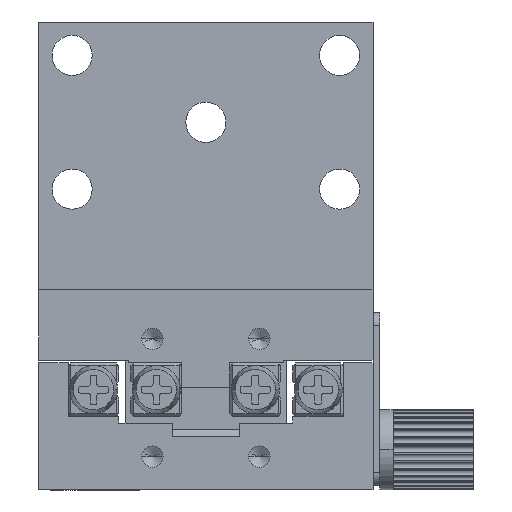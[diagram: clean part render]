
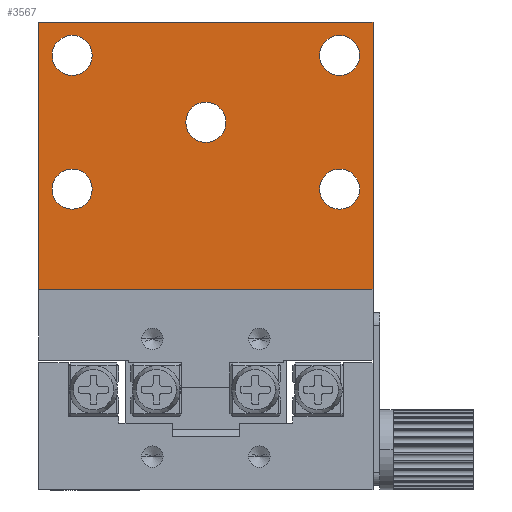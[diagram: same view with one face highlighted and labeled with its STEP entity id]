
A CAD part, front view. The second image highlights one B-rep face of the part: STEP entity #3567.
In plain terms, the highlighted planar face has unit normal (0, -1, 0).
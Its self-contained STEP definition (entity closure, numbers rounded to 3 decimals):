
#140 = FACE_OUTER_BOUND ( 'NONE', #2528, .T. ) ;
#514 = EDGE_CURVE ( 'NONE', #7730, #12705, #9585, .T. ) ;
#1009 = FACE_BOUND ( 'NONE', #10762, .T. ) ;
#1157 = CARTESIAN_POINT ( 'NONE',  ( 10., 0., -11. ) ) ;
#1181 = CARTESIAN_POINT ( 'NONE',  ( 10., 0., -12.5 ) ) ;
#1530 = AXIS2_PLACEMENT_3D ( 'NONE', #2009, #1953, #11672 ) ;
#1678 = EDGE_CURVE ( 'NONE', #12705, #7730, #16372, .T. ) ;
#1953 = DIRECTION ( 'NONE',  ( 0., 1., 0. ) ) ;
#2009 = CARTESIAN_POINT ( 'NONE',  ( 10., 0., -12.5 ) ) ;
#2384 = CARTESIAN_POINT ( 'NONE',  ( -10., 0., -11. ) ) ;
#2528 = EDGE_LOOP ( 'NONE', ( #13235, #16223, #15212, #7997 ) ) ;
#3305 = EDGE_CURVE ( 'NONE', #4395, #13098, #14476, .T. ) ;
#3344 = FACE_BOUND ( 'NONE', #16914, .T. ) ;
#3500 = CARTESIAN_POINT ( 'NONE',  ( -10., 0., -4. ) ) ;
#3554 = ORIENTED_EDGE ( 'NONE', *, *, #4140, .T. ) ;
#3567 = ADVANCED_FACE ( 'NONE', ( #5704, #11893, #3781, #3344, #1009, #140 ), #10033, .F. ) ;
#3698 = EDGE_LOOP ( 'NONE', ( #13411, #15496 ) ) ;
#3702 = AXIS2_PLACEMENT_3D ( 'NONE', #1181, #14852, #17394 ) ;
#3781 = FACE_BOUND ( 'NONE', #6501, .T. ) ;
#3858 = CARTESIAN_POINT ( 'NONE',  ( 12.5, 0., -20. ) ) ;
#4042 = AXIS2_PLACEMENT_3D ( 'NONE', #6211, #13021, #4842 ) ;
#4094 = CARTESIAN_POINT ( 'NONE',  ( 10., 0., -2.5 ) ) ;
#4105 = DIRECTION ( 'NONE',  ( 0., 0., 1. ) ) ;
#4140 = EDGE_CURVE ( 'NONE', #9776, #15079, #17193, .T. ) ;
#4395 = VERTEX_POINT ( 'NONE', #6681 ) ;
#4709 = CARTESIAN_POINT ( 'NONE',  ( 0., 0., -6. ) ) ;
#4808 = VERTEX_POINT ( 'NONE', #11592 ) ;
#4842 = DIRECTION ( 'NONE',  ( 0., 0., 1. ) ) ;
#5161 = EDGE_CURVE ( 'NONE', #9885, #9914, #7875, .T. ) ;
#5178 = CARTESIAN_POINT ( 'NONE',  ( -10., 0., -2.5 ) ) ;
#5704 = FACE_BOUND ( 'NONE', #3698, .T. ) ;
#5728 = EDGE_CURVE ( 'NONE', #8349, #9914, #8684, .T. ) ;
#6193 = DIRECTION ( 'NONE',  ( -1., 0., 0. ) ) ;
#6211 = CARTESIAN_POINT ( 'NONE',  ( -10., 0., -12.5 ) ) ;
#6301 = ORIENTED_EDGE ( 'NONE', *, *, #9181, .T. ) ;
#6327 = DIRECTION ( 'NONE',  ( 0., 1., 0. ) ) ;
#6501 = EDGE_LOOP ( 'NONE', ( #11698, #10895 ) ) ;
#6621 = DIRECTION ( 'NONE',  ( 0., 0., 1. ) ) ;
#6673 = DIRECTION ( 'NONE',  ( 0., 0., 1. ) ) ;
#6681 = CARTESIAN_POINT ( 'NONE',  ( 10., 0., -1. ) ) ;
#6759 = CARTESIAN_POINT ( 'NONE',  ( 10., 0., -2.5 ) ) ;
#6771 = EDGE_CURVE ( 'NONE', #12046, #4808, #12106, .T. ) ;
#6869 = DIRECTION ( 'NONE',  ( 0., 0., 1. ) ) ;
#7203 = CARTESIAN_POINT ( 'NONE',  ( -12.5, 0., -20. ) ) ;
#7292 = EDGE_CURVE ( 'NONE', #12628, #9885, #13567, .T. ) ;
#7313 = CIRCLE ( 'NONE', #8182, 1.5 ) ;
#7425 = DIRECTION ( 'NONE',  ( 0., 0., 1. ) ) ;
#7522 = DIRECTION ( 'NONE',  ( -1., 0., 0. ) ) ;
#7730 = VERTEX_POINT ( 'NONE', #13356 ) ;
#7875 = LINE ( 'NONE', #12550, #12121 ) ;
#7997 = ORIENTED_EDGE ( 'NONE', *, *, #7292, .T. ) ;
#8007 = AXIS2_PLACEMENT_3D ( 'NONE', #13139, #6327, #15864 ) ;
#8011 = AXIS2_PLACEMENT_3D ( 'NONE', #12390, #8167, #4105 ) ;
#8167 = DIRECTION ( 'NONE',  ( 0., 1., 0. ) ) ;
#8182 = AXIS2_PLACEMENT_3D ( 'NONE', #8474, #15570, #8233 ) ;
#8233 = DIRECTION ( 'NONE',  ( 0., 0., 1. ) ) ;
#8243 = EDGE_LOOP ( 'NONE', ( #16619, #6301 ) ) ;
#8349 = VERTEX_POINT ( 'NONE', #3858 ) ;
#8474 = CARTESIAN_POINT ( 'NONE',  ( 0., 0., -7.5 ) ) ;
#8484 = VECTOR ( 'NONE', #12285, 1000. ) ;
#8684 = LINE ( 'NONE', #12936, #14237 ) ;
#8798 = CARTESIAN_POINT ( 'NONE',  ( 10., 0., -14. ) ) ;
#8902 = AXIS2_PLACEMENT_3D ( 'NONE', #6759, #17658, #13722 ) ;
#9181 = EDGE_CURVE ( 'NONE', #12872, #16712, #7313, .T. ) ;
#9198 = AXIS2_PLACEMENT_3D ( 'NONE', #15467, #15408, #7425 ) ;
#9585 = CIRCLE ( 'NONE', #14883, 1.5 ) ;
#9776 = VERTEX_POINT ( 'NONE', #1157 ) ;
#9855 = ORIENTED_EDGE ( 'NONE', *, *, #17641, .T. ) ;
#9880 = CARTESIAN_POINT ( 'NONE',  ( 10., 0., -4. ) ) ;
#9885 = VERTEX_POINT ( 'NONE', #16598 ) ;
#9906 = CIRCLE ( 'NONE', #3702, 1.5 ) ;
#9914 = VERTEX_POINT ( 'NONE', #7203 ) ;
#9915 = VECTOR ( 'NONE', #6193, 1000. ) ;
#10033 = PLANE ( 'NONE',  #9198 ) ;
#10441 = CARTESIAN_POINT ( 'NONE',  ( 12.5, 0., 0. ) ) ;
#10650 = EDGE_CURVE ( 'NONE', #4808, #12046, #17264, .T. ) ;
#10762 = EDGE_LOOP ( 'NONE', ( #3554, #9855 ) ) ;
#10895 = ORIENTED_EDGE ( 'NONE', *, *, #6771, .T. ) ;
#11592 = CARTESIAN_POINT ( 'NONE',  ( -10., 0., -1. ) ) ;
#11672 = DIRECTION ( 'NONE',  ( 0., 0., 1. ) ) ;
#11698 = ORIENTED_EDGE ( 'NONE', *, *, #10650, .T. ) ;
#11766 = EDGE_CURVE ( 'NONE', #12628, #8349, #17222, .T. ) ;
#11811 = EDGE_CURVE ( 'NONE', #13098, #4395, #12987, .T. ) ;
#11893 = FACE_BOUND ( 'NONE', #8243, .T. ) ;
#11904 = DIRECTION ( 'NONE',  ( 0., 1., 0. ) ) ;
#12046 = VERTEX_POINT ( 'NONE', #3500 ) ;
#12106 = CIRCLE ( 'NONE', #8007, 1.5 ) ;
#12121 = VECTOR ( 'NONE', #16642, 1000. ) ;
#12285 = DIRECTION ( 'NONE',  ( 0., 0., -1. ) ) ;
#12309 = DIRECTION ( 'NONE',  ( 0., 1., 0. ) ) ;
#12390 = CARTESIAN_POINT ( 'NONE',  ( 0., 0., -7.5 ) ) ;
#12550 = CARTESIAN_POINT ( 'NONE',  ( -12.5, 0., 0. ) ) ;
#12628 = VERTEX_POINT ( 'NONE', #10441 ) ;
#12705 = VERTEX_POINT ( 'NONE', #2384 ) ;
#12872 = VERTEX_POINT ( 'NONE', #17471 ) ;
#12936 = CARTESIAN_POINT ( 'NONE',  ( 12.5, 0., -20. ) ) ;
#12987 = CIRCLE ( 'NONE', #8902, 1.5 ) ;
#12999 = CARTESIAN_POINT ( 'NONE',  ( 12.5, 0., 0. ) ) ;
#13021 = DIRECTION ( 'NONE',  ( 0., 1., 0. ) ) ;
#13098 = VERTEX_POINT ( 'NONE', #9880 ) ;
#13139 = CARTESIAN_POINT ( 'NONE',  ( -10., 0., -2.5 ) ) ;
#13174 = CIRCLE ( 'NONE', #8011, 1.5 ) ;
#13235 = ORIENTED_EDGE ( 'NONE', *, *, #5161, .T. ) ;
#13356 = CARTESIAN_POINT ( 'NONE',  ( -10., 0., -14. ) ) ;
#13411 = ORIENTED_EDGE ( 'NONE', *, *, #1678, .T. ) ;
#13466 = AXIS2_PLACEMENT_3D ( 'NONE', #5178, #11904, #6621 ) ;
#13567 = LINE ( 'NONE', #12999, #9915 ) ;
#13722 = DIRECTION ( 'NONE',  ( 0., 0., 1. ) ) ;
#14237 = VECTOR ( 'NONE', #7522, 1000. ) ;
#14476 = CIRCLE ( 'NONE', #14799, 1.5 ) ;
#14799 = AXIS2_PLACEMENT_3D ( 'NONE', #4094, #12309, #6673 ) ;
#14852 = DIRECTION ( 'NONE',  ( 0., 1., 0. ) ) ;
#14883 = AXIS2_PLACEMENT_3D ( 'NONE', #17696, #15020, #6869 ) ;
#15020 = DIRECTION ( 'NONE',  ( 0., 1., 0. ) ) ;
#15076 = ORIENTED_EDGE ( 'NONE', *, *, #11811, .T. ) ;
#15079 = VERTEX_POINT ( 'NONE', #8798 ) ;
#15212 = ORIENTED_EDGE ( 'NONE', *, *, #11766, .F. ) ;
#15408 = DIRECTION ( 'NONE',  ( 0., 1., 0. ) ) ;
#15467 = CARTESIAN_POINT ( 'NONE',  ( 12.5, 0., 0. ) ) ;
#15496 = ORIENTED_EDGE ( 'NONE', *, *, #514, .T. ) ;
#15570 = DIRECTION ( 'NONE',  ( 0., 1., 0. ) ) ;
#15864 = DIRECTION ( 'NONE',  ( 0., 0., 1. ) ) ;
#16114 = EDGE_CURVE ( 'NONE', #16712, #12872, #13174, .T. ) ;
#16223 = ORIENTED_EDGE ( 'NONE', *, *, #5728, .F. ) ;
#16325 = CARTESIAN_POINT ( 'NONE',  ( 12.5, 0., 0. ) ) ;
#16372 = CIRCLE ( 'NONE', #4042, 1.5 ) ;
#16598 = CARTESIAN_POINT ( 'NONE',  ( -12.5, 0., 0. ) ) ;
#16619 = ORIENTED_EDGE ( 'NONE', *, *, #16114, .T. ) ;
#16642 = DIRECTION ( 'NONE',  ( 0., 0., -1. ) ) ;
#16712 = VERTEX_POINT ( 'NONE', #4709 ) ;
#16866 = ORIENTED_EDGE ( 'NONE', *, *, #3305, .T. ) ;
#16914 = EDGE_LOOP ( 'NONE', ( #16866, #15076 ) ) ;
#17193 = CIRCLE ( 'NONE', #1530, 1.5 ) ;
#17222 = LINE ( 'NONE', #16325, #8484 ) ;
#17264 = CIRCLE ( 'NONE', #13466, 1.5 ) ;
#17394 = DIRECTION ( 'NONE',  ( 0., 0., 1. ) ) ;
#17471 = CARTESIAN_POINT ( 'NONE',  ( 0., 0., -9. ) ) ;
#17641 = EDGE_CURVE ( 'NONE', #15079, #9776, #9906, .T. ) ;
#17658 = DIRECTION ( 'NONE',  ( 0., 1., 0. ) ) ;
#17696 = CARTESIAN_POINT ( 'NONE',  ( -10., 0., -12.5 ) ) ;
